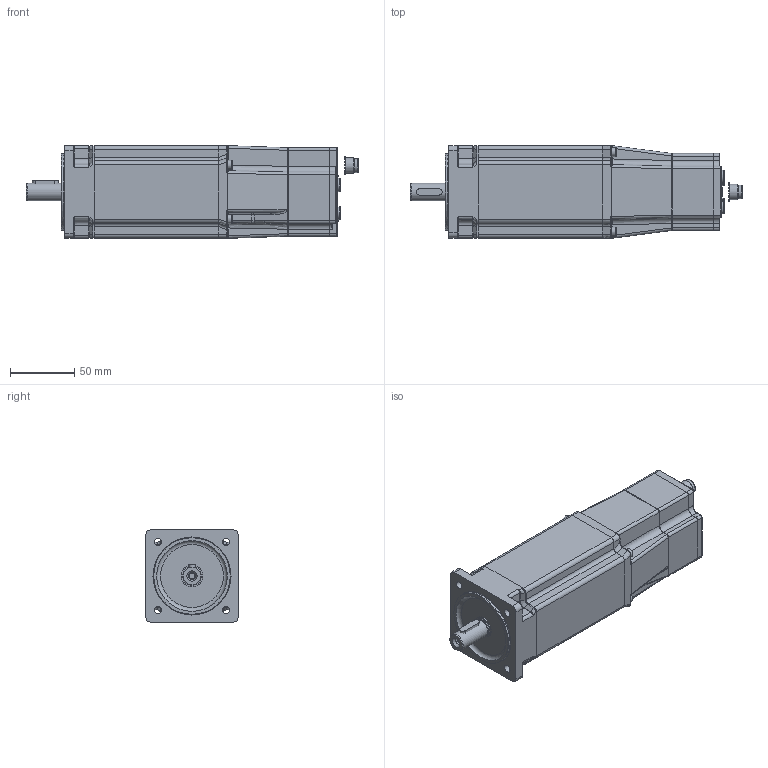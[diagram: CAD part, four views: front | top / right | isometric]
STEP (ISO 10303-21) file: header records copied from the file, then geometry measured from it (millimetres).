
FILE_DESCRIPTION(/* description */ (''),/* implementation_level */ '2;1');
FILE_NAME(/* name */ 'AMI8131-xxxx-xx11.stp',/* time_stamp */ '2023-10-17T08:57:20+02:00',/* author */ ('JohannesD'),/* organization */ ('FERTIG Motors'),/* preprocessor_version */ 'ST-DEVELOPER v19.2',/* originating_system */ 'Autodesk Inventor 2023',/* authorisation */ '');
FILE_SCHEMA (('AUTOMOTIVE_DESIGN { 1 0 10303 214 3 1 1 }'));
Length unit declared in the file: millimetre
Products named in the file (3): UM070-AMI-VM-01; UM070-AMI-VM-00; DIN 6885-A5x5x20
Assembly tree (2 placements, depth 2):
  UM070-AMI-VM-01
    UM070-AMI-VM-00
    DIN 6885-A5x5x20
Bounding box: 258.66 x 72.24 x 72.24 mm (x, y, z)
Volume: 905529.4 mm3; surface area: 107972.3 mm2
Topology: 19 solids, 19 shells, 924 faces, 2251 edges, 1417 vertices
Faces by surface type: plane 383, cylinder 281, bspline 144, torus 52, cone 50, sphere 14
Full cylindrical faces by diameter (mm): 0.8 x1, 2.459 x4, 3 x4, 3.2 x4, 3.4 x4, 4 x4, 4.2 x1, 5.3 x1, 5.5 x4, 6 x8, 6.4 x4, 6.5 x4, 6.6 x4, 7 x8, 8.9 x1, 9.9 x1, 10.7 x1, 12 x1, 13.6 x1, 14 x1, 32 x1, 60 x1
Entity records: 31264 total; most frequent: CARTESIAN_POINT 8818, ORIENTED_EDGE 4454, DIRECTION 4346, EDGE_CURVE 2227, AXIS2_PLACEMENT_3D 1596, VERTEX_POINT 1417, LINE 1154, VECTOR 1154
